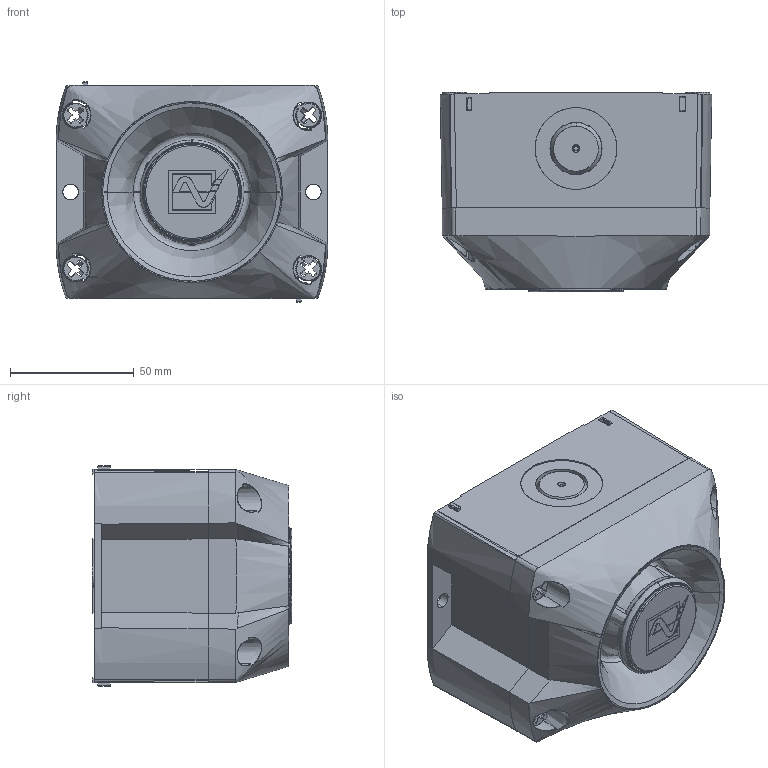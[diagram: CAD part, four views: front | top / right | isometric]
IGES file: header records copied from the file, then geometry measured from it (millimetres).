
Start section: SolidWorks IGES file using analytic representation for surfaces
Global section: file name: L:\3D Volumenmodelle\PATROL_PYRA\PA(X)1\PA1_30303-100.IGS; native system: SolidWorks 2011; preprocessor: SolidWorks 2011; author: MMark; date: 120110.105043; units: millimetre
Bounding box: 109.61 x 80.6 x 89 mm (x, y, z)
Surface area: 65861.7 mm2 (no closed solid volume)
Topology: 0 solids, 0 shells, 379 faces, 5277 edges, 5272 vertices
Faces by surface type: bspline 242, revolution 137
